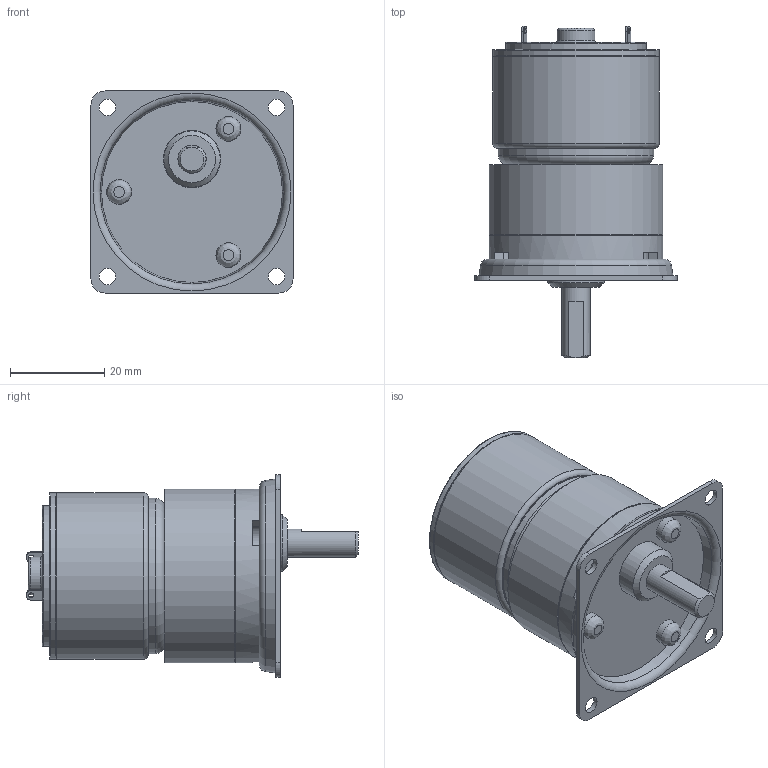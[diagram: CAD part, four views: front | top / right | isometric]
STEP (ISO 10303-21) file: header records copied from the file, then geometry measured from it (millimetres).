
FILE_DESCRIPTION((''),'2;1');
FILE_NAME('C:\Documents and Settings\SSEGAWA\デスクトップ\TP-3526E-PKS-2.STP','2013-07-09T16:54:12',('SSEGAWA'),(''),'Autodesk Inventor 2010','Autodesk Inventor 2010','');
FILE_SCHEMA(('CONFIG_CONTROL_DESIGN'));
Length unit declared in the file: millimetre
Products named in the file (5): tp_3526e_pks_2; pks_2; ks_2; □43; tp_3526e
Assembly tree (4 placements, depth 3):
  tp_3526e_pks_2
    pks_2
      ks_2
      □43
    tp_3526e
Bounding box: 43 x 70.6 x 43 mm (x, y, z)
Volume: 49298 mm3; surface area: 14840.6 mm2
Topology: 4 solids, 4 shells, 121 faces, 271 edges, 178 vertices
Faces by surface type: plane 49, cylinder 31, bspline 29, torus 7, cone 5
Full cylindrical faces by diameter (mm): 1.1 x1, 2 x1, 2.4 x1, 5 x1, 5.3 x3, 6 x1, 8 x1, 10 x1, 12 x1, 12.2 x1, 30 x1, 33 x1, 35 x1, 35.4 x2, 36.6 x1, 37 x2
Entity records: 3550 total; most frequent: CARTESIAN_POINT 1122, DIRECTION 499, ORIENTED_EDGE 366, AXIS2_PLACEMENT_3D 217, EDGE_LOOP 215, EDGE_CURVE 183, VERTEX_POINT 150, FACE_OUTER_BOUND 121
